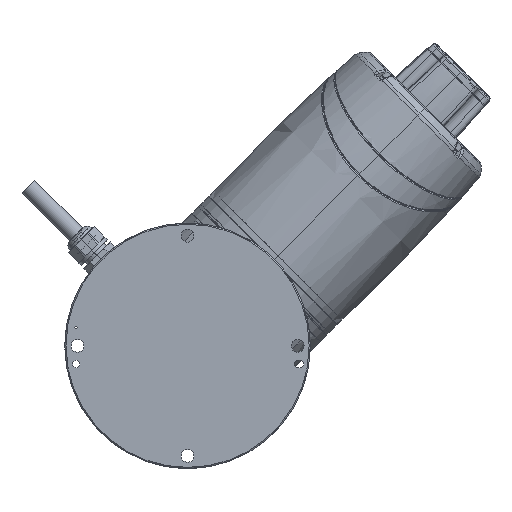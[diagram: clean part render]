
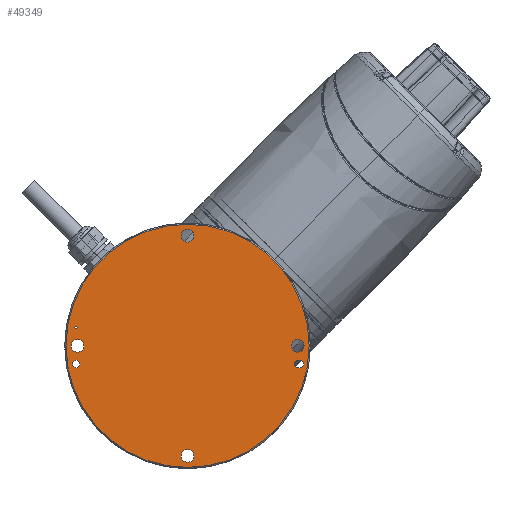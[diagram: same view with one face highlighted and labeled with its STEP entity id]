
A CAD part, front view. The second image highlights one B-rep face of the part: STEP entity #49349.
In plain terms, the highlighted planar face has unit normal (0, -1, 0).
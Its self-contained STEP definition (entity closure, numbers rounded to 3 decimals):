
#44853=CARTESIAN_POINT('',(0.,0.,0.));
#44854=DIRECTION('',(0.,1.,0.));
#44855=DIRECTION('',(1.,0.,0.));
#44856=AXIS2_PLACEMENT_3D('',#44853,#44854,#44855);
#44858=CARTESIAN_POINT('',(0.,0.,0.));
#44859=DIRECTION('',(0.,1.,0.));
#44860=DIRECTION('',(0.,0.,-1.));
#44861=AXIS2_PLACEMENT_3D('',#44858,#44859,#44860);
#44863=CARTESIAN_POINT('',(0.,0.,0.));
#44864=DIRECTION('',(0.,1.,0.));
#44865=DIRECTION('',(-1.,0.,0.));
#44866=AXIS2_PLACEMENT_3D('',#44863,#44864,#44865);
#44868=CARTESIAN_POINT('',(0.,0.,0.));
#44869=DIRECTION('',(0.,1.,0.));
#44870=DIRECTION('',(0.,0.,1.));
#44871=AXIS2_PLACEMENT_3D('',#44868,#44869,#44870);
#44873=CARTESIAN_POINT('',(-91.,0.,0.));
#44874=DIRECTION('',(0.,-1.,0.));
#44875=DIRECTION('',(-1.,0.,0.));
#44876=AXIS2_PLACEMENT_3D('',#44873,#44874,#44875);
#44878=CARTESIAN_POINT('',(-91.,0.,0.));
#44879=DIRECTION('',(0.,-1.,0.));
#44880=DIRECTION('',(1.,0.,0.));
#44881=AXIS2_PLACEMENT_3D('',#44878,#44879,#44880);
#44883=CARTESIAN_POINT('',(-92.,0.,-15.));
#44884=DIRECTION('',(0.,-1.,0.));
#44885=DIRECTION('',(1.,0.,0.));
#44886=AXIS2_PLACEMENT_3D('',#44883,#44884,#44885);
#44888=CARTESIAN_POINT('',(-92.,0.,-15.));
#44889=DIRECTION('',(0.,-1.,0.));
#44890=DIRECTION('',(-1.,0.,0.));
#44891=AXIS2_PLACEMENT_3D('',#44888,#44889,#44890);
#44893=CARTESIAN_POINT('',(0.,0.,91.));
#44894=DIRECTION('',(0.,-1.,0.));
#44895=DIRECTION('',(1.,0.,0.));
#44896=AXIS2_PLACEMENT_3D('',#44893,#44894,#44895);
#44898=CARTESIAN_POINT('',(0.,0.,91.));
#44899=DIRECTION('',(0.,-1.,0.));
#44900=DIRECTION('',(-1.,0.,0.));
#44901=AXIS2_PLACEMENT_3D('',#44898,#44899,#44900);
#44903=CARTESIAN_POINT('',(91.,0.,0.));
#44904=DIRECTION('',(0.,-1.,0.));
#44905=DIRECTION('',(1.,0.,0.));
#44906=AXIS2_PLACEMENT_3D('',#44903,#44904,#44905);
#44908=CARTESIAN_POINT('',(91.,0.,0.));
#44909=DIRECTION('',(0.,-1.,0.));
#44910=DIRECTION('',(-1.,0.,0.));
#44911=AXIS2_PLACEMENT_3D('',#44908,#44909,#44910);
#44913=CARTESIAN_POINT('',(93.,0.,-15.));
#44914=DIRECTION('',(0.,-1.,0.));
#44915=DIRECTION('',(0.,0.,-1.));
#44916=AXIS2_PLACEMENT_3D('',#44913,#44914,#44915);
#44918=CARTESIAN_POINT('',(93.,0.,-15.));
#44919=DIRECTION('',(0.,-1.,0.));
#44920=DIRECTION('',(1.,0.,0.));
#44921=AXIS2_PLACEMENT_3D('',#44918,#44919,#44920);
#44923=DIRECTION('',(-1.,0.,0.));
#44924=VECTOR('',#44923,2.);
#44925=CARTESIAN_POINT('',(93.,0.,-12.));
#44926=LINE('',#44925,#44924);
#44927=CARTESIAN_POINT('',(91.,0.,-15.));
#44928=DIRECTION('',(0.,-1.,0.));
#44929=DIRECTION('',(0.,0.,1.));
#44930=AXIS2_PLACEMENT_3D('',#44927,#44928,#44929);
#44932=CARTESIAN_POINT('',(91.,0.,-15.));
#44933=DIRECTION('',(0.,-1.,0.));
#44934=DIRECTION('',(-1.,0.,0.));
#44935=AXIS2_PLACEMENT_3D('',#44932,#44933,#44934);
#44937=DIRECTION('',(1.,0.,0.));
#44938=VECTOR('',#44937,2.);
#44939=CARTESIAN_POINT('',(91.,0.,-18.));
#44940=LINE('',#44939,#44938);
#44941=CARTESIAN_POINT('',(-92.,0.,15.));
#44942=DIRECTION('',(0.,-1.,0.));
#44943=DIRECTION('',(-1.,0.,0.));
#44944=AXIS2_PLACEMENT_3D('',#44941,#44942,#44943);
#44946=CARTESIAN_POINT('',(-92.,0.,15.));
#44947=DIRECTION('',(0.,-1.,0.));
#44948=DIRECTION('',(1.,0.,0.));
#44949=AXIS2_PLACEMENT_3D('',#44946,#44947,#44948);
#44951=CARTESIAN_POINT('',(0.,0.,-91.));
#44952=DIRECTION('',(0.,-1.,0.));
#44953=DIRECTION('',(1.,0.,0.));
#44954=AXIS2_PLACEMENT_3D('',#44951,#44952,#44953);
#44956=CARTESIAN_POINT('',(0.,0.,-91.));
#44957=DIRECTION('',(0.,-1.,0.));
#44958=DIRECTION('',(-1.,0.,0.));
#44959=AXIS2_PLACEMENT_3D('',#44956,#44957,#44958);
#48860=CARTESIAN_POINT('',(100.5,0.,0.));
#48861=CARTESIAN_POINT('',(0.,0.,-100.5));
#48862=VERTEX_POINT('',#48860);
#48863=VERTEX_POINT('',#48861);
#48864=CARTESIAN_POINT('',(-100.5,0.,0.));
#48865=VERTEX_POINT('',#48864);
#48866=CARTESIAN_POINT('',(0.,0.,100.5));
#48867=VERTEX_POINT('',#48866);
#48868=CARTESIAN_POINT('',(-96.25,0.,0.));
#48869=CARTESIAN_POINT('',(-85.75,0.,0.));
#48870=VERTEX_POINT('',#48868);
#48871=VERTEX_POINT('',#48869);
#48872=CARTESIAN_POINT('',(-89.,0.,-15.));
#48873=CARTESIAN_POINT('',(-95.,0.,-15.));
#48874=VERTEX_POINT('',#48872);
#48875=VERTEX_POINT('',#48873);
#48876=CARTESIAN_POINT('',(5.25,0.,91.));
#48877=CARTESIAN_POINT('',(-5.25,0.,91.));
#48878=VERTEX_POINT('',#48876);
#48879=VERTEX_POINT('',#48877);
#48880=CARTESIAN_POINT('',(96.25,0.,0.));
#48881=CARTESIAN_POINT('',(85.75,0.,0.));
#48882=VERTEX_POINT('',#48880);
#48883=VERTEX_POINT('',#48881);
#48884=CARTESIAN_POINT('',(93.,0.,-18.));
#48885=CARTESIAN_POINT('',(96.,0.,-15.));
#48886=VERTEX_POINT('',#48884);
#48887=VERTEX_POINT('',#48885);
#48888=CARTESIAN_POINT('',(93.,0.,-12.));
#48889=VERTEX_POINT('',#48888);
#48890=CARTESIAN_POINT('',(91.,0.,-12.));
#48891=VERTEX_POINT('',#48890);
#48892=CARTESIAN_POINT('',(88.,0.,-15.));
#48893=VERTEX_POINT('',#48892);
#48894=CARTESIAN_POINT('',(91.,0.,-18.));
#48895=VERTEX_POINT('',#48894);
#48896=CARTESIAN_POINT('',(-93.25,0.,15.));
#48897=CARTESIAN_POINT('',(-90.75,0.,15.));
#48898=VERTEX_POINT('',#48896);
#48899=VERTEX_POINT('',#48897);
#48900=CARTESIAN_POINT('',(5.25,0.,-91.));
#48901=CARTESIAN_POINT('',(-5.25,0.,-91.));
#48902=VERTEX_POINT('',#48900);
#48903=VERTEX_POINT('',#48901);
#49284=CARTESIAN_POINT('',(0.,0.,0.));
#49285=DIRECTION('',(0.,-1.,0.));
#49286=DIRECTION('',(-1.,0.,0.));
#49287=AXIS2_PLACEMENT_3D('',#49284,#49285,#49286);
#49288=PLANE('',#49287);
#49290=ORIENTED_EDGE('',*,*,#49289,.T.);
#49292=ORIENTED_EDGE('',*,*,#49291,.T.);
#49294=ORIENTED_EDGE('',*,*,#49293,.T.);
#49296=ORIENTED_EDGE('',*,*,#49295,.T.);
#49297=EDGE_LOOP('',(#49290,#49292,#49294,#49296));
#49298=FACE_OUTER_BOUND('',#49297,.F.);
#49300=ORIENTED_EDGE('',*,*,#49299,.T.);
#49302=ORIENTED_EDGE('',*,*,#49301,.T.);
#49303=EDGE_LOOP('',(#49300,#49302));
#49304=FACE_BOUND('',#49303,.F.);
#49306=ORIENTED_EDGE('',*,*,#49305,.T.);
#49308=ORIENTED_EDGE('',*,*,#49307,.T.);
#49309=EDGE_LOOP('',(#49306,#49308));
#49310=FACE_BOUND('',#49309,.F.);
#49312=ORIENTED_EDGE('',*,*,#49311,.T.);
#49314=ORIENTED_EDGE('',*,*,#49313,.T.);
#49315=EDGE_LOOP('',(#49312,#49314));
#49316=FACE_BOUND('',#49315,.F.);
#49318=ORIENTED_EDGE('',*,*,#49317,.T.);
#49320=ORIENTED_EDGE('',*,*,#49319,.T.);
#49321=EDGE_LOOP('',(#49318,#49320));
#49322=FACE_BOUND('',#49321,.F.);
#49324=ORIENTED_EDGE('',*,*,#49323,.T.);
#49326=ORIENTED_EDGE('',*,*,#49325,.T.);
#49328=ORIENTED_EDGE('',*,*,#49327,.T.);
#49330=ORIENTED_EDGE('',*,*,#49329,.T.);
#49332=ORIENTED_EDGE('',*,*,#49331,.T.);
#49334=ORIENTED_EDGE('',*,*,#49333,.T.);
#49335=EDGE_LOOP('',(#49324,#49326,#49328,#49330,#49332,#49334));
#49336=FACE_BOUND('',#49335,.F.);
#49338=ORIENTED_EDGE('',*,*,#49337,.T.);
#49340=ORIENTED_EDGE('',*,*,#49339,.T.);
#49341=EDGE_LOOP('',(#49338,#49340));
#49342=FACE_BOUND('',#49341,.F.);
#49344=ORIENTED_EDGE('',*,*,#49343,.T.);
#49346=ORIENTED_EDGE('',*,*,#49345,.T.);
#49347=EDGE_LOOP('',(#49344,#49346));
#49348=FACE_BOUND('',#49347,.F.);
#49349=ADVANCED_FACE('',(#49298,#49304,#49310,#49316,#49322,#49336,#49342,
#49348),#49288,.T.);
#44857=CIRCLE('',#44856,100.5);
#44862=CIRCLE('',#44861,100.5);
#44867=CIRCLE('',#44866,100.5);
#44872=CIRCLE('',#44871,100.5);
#44877=CIRCLE('',#44876,5.25);
#44882=CIRCLE('',#44881,5.25);
#44887=CIRCLE('',#44886,3.);
#44892=CIRCLE('',#44891,3.);
#44897=CIRCLE('',#44896,5.25);
#44902=CIRCLE('',#44901,5.25);
#44907=CIRCLE('',#44906,5.25);
#44912=CIRCLE('',#44911,5.25);
#44917=CIRCLE('',#44916,3.);
#44922=CIRCLE('',#44921,3.);
#44931=CIRCLE('',#44930,3.);
#44936=CIRCLE('',#44935,3.);
#44945=CIRCLE('',#44944,1.25);
#44950=CIRCLE('',#44949,1.25);
#44955=CIRCLE('',#44954,5.25);
#44960=CIRCLE('',#44959,5.25);
#49289=EDGE_CURVE('',#48862,#48863,#44857,.T.);
#49291=EDGE_CURVE('',#48863,#48865,#44862,.T.);
#49293=EDGE_CURVE('',#48865,#48867,#44867,.T.);
#49295=EDGE_CURVE('',#48867,#48862,#44872,.T.);
#49299=EDGE_CURVE('',#48870,#48871,#44877,.T.);
#49301=EDGE_CURVE('',#48871,#48870,#44882,.T.);
#49305=EDGE_CURVE('',#48874,#48875,#44887,.T.);
#49307=EDGE_CURVE('',#48875,#48874,#44892,.T.);
#49311=EDGE_CURVE('',#48878,#48879,#44897,.T.);
#49313=EDGE_CURVE('',#48879,#48878,#44902,.T.);
#49317=EDGE_CURVE('',#48882,#48883,#44907,.T.);
#49319=EDGE_CURVE('',#48883,#48882,#44912,.T.);
#49323=EDGE_CURVE('',#48886,#48887,#44917,.T.);
#49325=EDGE_CURVE('',#48887,#48889,#44922,.T.);
#49327=EDGE_CURVE('',#48889,#48891,#44926,.T.);
#49329=EDGE_CURVE('',#48891,#48893,#44931,.T.);
#49331=EDGE_CURVE('',#48893,#48895,#44936,.T.);
#49333=EDGE_CURVE('',#48895,#48886,#44940,.T.);
#49337=EDGE_CURVE('',#48898,#48899,#44945,.T.);
#49339=EDGE_CURVE('',#48899,#48898,#44950,.T.);
#49343=EDGE_CURVE('',#48902,#48903,#44955,.T.);
#49345=EDGE_CURVE('',#48903,#48902,#44960,.T.);
